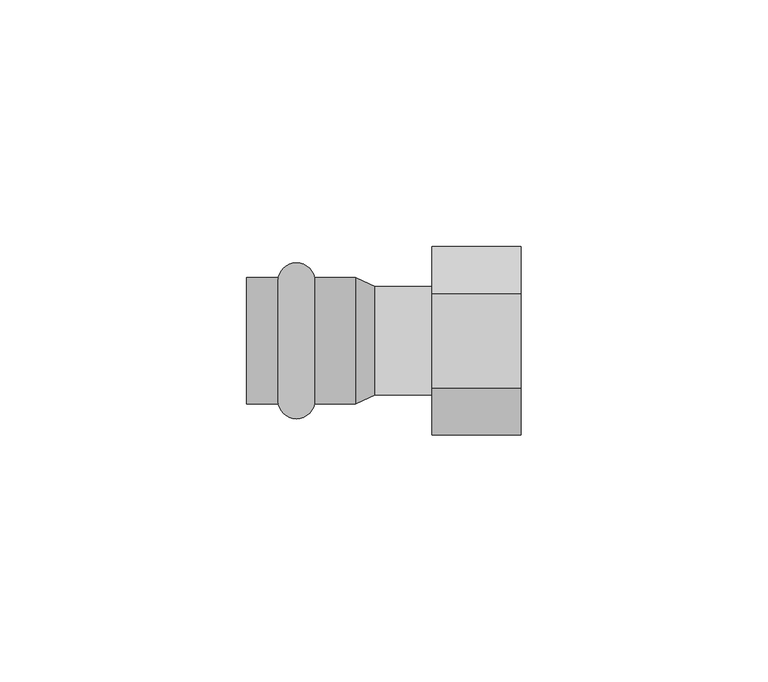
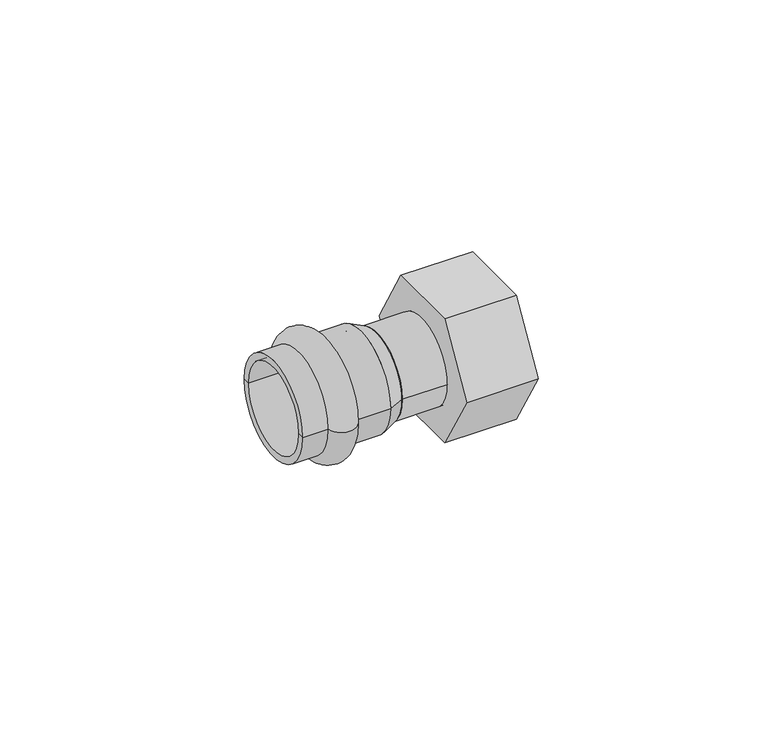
"""IFC4 building model written with IfcOpenShell, lengths in millimetres: pipe fitting geometry, VALTEC_VTi.902.I_Соединитель прямой с переходом на внутреннюю резьбу_Нержавеющая сталь : VTi.902.I."""

from ifc_helpers import new_model, si_unit, point, frame, origin, origin_2d, place, context, project, spatial, polyline, circle_curve, ellipse_curve, trimmed, segment, composite_curve, outline, extrude, source, transform, mapped, element, save
from ifc_brep_helpers import plane_surface, cylinder_surface, revolved_surface, advanced_brep


def pipe_fitting_61f0fcc3(model_context):
    return source(origin(), model_context, "Body", "SolidModel", [
        advanced_brep(
        [(-40.1242346, -12.8, 0.0), (-40.1242346, 12.8, 0.0), (-32.7757654, 12.8, 0.0), (-32.7757654, -12.8, 0.0), (-46.5, -12.8, 0.0), (-46.5, 12.8, 0.0), (-46.5, -11.0, 0.0), (-46.5, 11.0, 0.0), (-24.5, -11.0, 0.0), (-24.5, 11.0, 0.0), (-24.5, -12.8, 0.0), (-24.5, 12.8, 0.0)],
        [
            (0, 1, circle_curve(frame((-40.1242346, 0.0, 0.0), z_axis=(1.0, 0.0, 0.0), x_axis=(0.0, 1.0, 0.0)), 12.8)),
            (1, 2, circle_curve(frame((-36.45, 12.05, 0.0), z_axis=(0.0, 0.0, -1.0), x_axis=(1.0, 0.0, 0.0)), 3.75)),
            (2, 3, circle_curve(frame((-32.7757654, 0.0, 0.0), z_axis=(-1.0, 0.0, 0.0), x_axis=(0.0, 1.0, 0.0)), 12.8)),
            (3, 0, circle_curve(frame((-36.45, -12.05, 0.0), z_axis=(0.0, 0.0, -1.0), x_axis=(1.0, 0.0, 0.0)), 3.75)),
            (1, 0, circle_curve(frame((-40.1242346, 0.0, 0.0), z_axis=(1.0, 0.0, 0.0), x_axis=(0.0, 1.0, 0.0)), 12.8)),
            (3, 2, circle_curve(frame((-32.7757654, 0.0, 0.0), z_axis=(-1.0, 0.0, 0.0), x_axis=(0.0, 1.0, 0.0)), 12.8)),
            (4, 5, circle_curve(frame((-46.5, 0.0, 0.0), z_axis=(1.0, 0.0, 0.0), x_axis=(0.0, 1.0, 0.0)), 12.8)),
            (5, 1),
            (0, 4),
            (5, 4, circle_curve(frame((-46.5, 0.0, 0.0), z_axis=(1.0, 0.0, 0.0), x_axis=(0.0, 1.0, 0.0)), 12.8)),
            (6, 7, circle_curve(frame((-46.5, 0.0, 0.0), z_axis=(1.0, 0.0, 0.0), x_axis=(0.0, 1.0, 0.0)), 11.0)),
            (7, 5),
            (4, 6),
            (7, 6, circle_curve(frame((-46.5, 0.0, 0.0), z_axis=(1.0, 0.0, 0.0), x_axis=(0.0, 1.0, 0.0)), 11.0)),
            (8, 9, circle_curve(frame((-24.5, 0.0, 0.0), z_axis=(1.0, 0.0, 0.0), x_axis=(0.0, 1.0, 0.0)), 11.0)),
            (9, 7),
            (6, 8),
            (9, 8, circle_curve(frame((-24.5, 0.0, 0.0), z_axis=(1.0, 0.0, 0.0), x_axis=(0.0, 1.0, 0.0)), 11.0)),
            (10, 11, circle_curve(frame((-24.5, 0.0, 0.0), z_axis=(1.0, 0.0, 0.0), x_axis=(0.0, 1.0, 0.0)), 12.8)),
            (11, 9),
            (8, 10),
            (11, 10, circle_curve(frame((-24.5, 0.0, 0.0), z_axis=(1.0, 0.0, 0.0), x_axis=(0.0, 1.0, 0.0)), 12.8)),
            (2, 11),
            (10, 3),
        ],
        [
            revolved_surface(trimmed(ellipse_curve(frame((-36.45, 12.05, 0.0), z_axis=(0.0, 0.0, 1.0), x_axis=(1.0, 0.0, 0.0)), 3.75, 3.75), [point((-32.7757654, 12.8, 0.0))], [point((-40.1242346, 12.8, 0.0))], True, "CARTESIAN"), (-50.0364426, 0.0, 0.0), (-1.0, 0.0, 0.0)),
            cylinder_surface(frame((-50.0364426, 0.0, 0.0), z_axis=(-1.0, 0.0, 0.0), x_axis=(0.0, 1.0, 0.0)), 12.8),
            plane_surface(frame((-46.5, 0.0, 0.0), z_axis=(-1.0, 0.0, 0.0), x_axis=(0.0, 1.0, 0.0))),
            revolved_surface(polyline([(-46.5, 11.0, 0.0), (-24.5, 11.0, 0.0)]), (-50.0364426, 0.0, 0.0), (-1.0, 0.0, 0.0)),
            plane_surface(frame((-24.5, 0.0, 0.0), z_axis=(1.0, 0.0, 0.0), x_axis=(0.0, 1.0, 0.0))),
        ],
        [
            (0, [[1, 2, 3, 4]]),
            (0, [[5, -4, 6, -2]]),
            (1, [[7, 8, -1, 9]]),
            (1, [[10, -9, -5, -8]]),
            (2, [[11, 12, -7, 13]]),
            (2, [[14, -13, -10, -12]]),
            (3, [[15, 16, -11, 17]]),
            (3, [[18, -17, -14, -16]]),
            (4, [[19, 20, -15, 21]]),
            (4, [[22, -21, -18, -20]]),
            (1, [[-3, 23, -19, 24]]),
            (1, [[-6, -24, -22, -23]]),
        ],
    ),
        extrude(outline(polyline([(-19.0525589, 0.0), (-9.5262794, 16.5), (9.5262794, 16.5), (19.0525589, 0.0), (9.5262794, -16.5), (-9.5262794, -16.5), (-19.0525589, 0.0)])), frame((-9.0, 0.0, 0.0), z_axis=(1.0, 0.0, 0.0), x_axis=(0.0, 1.0, 0.0)), (0.0, 0.0, 1.0), 18.0),
        extrude(outline(composite_curve([segment(trimmed(circle_curve(origin_2d(), 11.0), [point((-11.0, 0.0))], [point((11.0, 0.0))], False, "CARTESIAN"), True, "CONTINUOUS"), segment(trimmed(circle_curve(origin_2d(), 11.0), [point((11.0, 0.0))], [point((-11.0, 0.0))], False, "CARTESIAN"), True, "CONTINUOUS")], self_intersect=False)), frame((-20.5, 0.0, 0.0), z_axis=(1.0, 0.0, 0.0), x_axis=(0.0, 1.0, 0.0)), (0.0, 0.0, 1.0), 12.0),
        advanced_brep(
        [(-20.5, -11.0, 0.0), (-20.5, 11.0, 0.0), (-24.5, -12.8, 0.0), (-24.5, 12.8, 0.0)],
        [
            (0, 1, circle_curve(frame((-20.5, 0.0, 0.0), z_axis=(1.0, 0.0, 0.0), x_axis=(0.0, -1.0, 0.0)), 11.0)),
            (1, 0, circle_curve(frame((-20.5, 0.0, 0.0), z_axis=(1.0, 0.0, 0.0), x_axis=(0.0, 1.0, 0.0)), 11.0)),
            (2, 3, circle_curve(frame((-24.5, 0.0, 0.0), z_axis=(-1.0, 0.0, 0.0), x_axis=(0.0, 1.0, 0.0)), 12.8)),
            (3, 2, circle_curve(frame((-24.5, 0.0, 0.0), z_axis=(-1.0, 0.0, 0.0), x_axis=(0.0, -1.0, 0.0)), 12.8)),
            (3, 1),
            (0, 2),
        ],
        [
            plane_surface(frame((-20.5, 0.0, 0.0), z_axis=(1.0, 0.0, 0.0), x_axis=(0.0, 0.0, -1.0))),
            plane_surface(frame((-24.5, 0.0, 0.0), z_axis=(-1.0, 0.0, 0.0), x_axis=(0.0, 0.0, -1.0))),
            revolved_surface(polyline([(-20.5, -10.999999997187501, 0.0), (-24.5, -12.8, 0.0)]), (3.9444444, 0.0, 0.0), (-1.0, 0.0, 0.0)),
            revolved_surface(polyline([(-20.5, 10.999999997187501, 0.0), (-24.5, 12.8, 0.0)]), (3.9444444, 0.0, 0.0), (-1.0, 0.0, 0.0)),
        ],
        [
            (0, [[1, 2]]),
            (1, [[3, 4]]),
            (2, [[-4, 5, -1, 6]]),
            (3, [[-3, -6, -2, -5]]),
        ],
    ),
    ])


if __name__ == "__main__":
    model = new_model("IFC4")
    model_context = context("Model", 3, world=origin())
    ifc_project = project(units=[si_unit("LENGTHUNIT", "METRE", prefix="MILLI")], contexts=[model_context])
    site = spatial("IfcSite", under=ifc_project)
    building = spatial("IfcBuilding", under=site)
    placement = place(None, origin())
    pipe_fitting_shape = pipe_fitting_61f0fcc3(model_context)
    element("IfcPipeFitting", 1, ObjectType="VALTEC_VTi.902.I_Соединитель прямой с переходом на внутреннюю резьбу_Нержавеющая сталь : VTi.902.I", at=placement, inside=building, context=model_context, shape_type="MappedRepresentation", body=[
        mapped(pipe_fitting_shape, transform((0.0, 0.0, 0.0), x_axis=(1.0, 0.0, 0.0), y_axis=(0.0, 1.0, 0.0), z_axis=(0.0, 0.0, 1.0))),
    ])
    save(model, "model.ifc")
